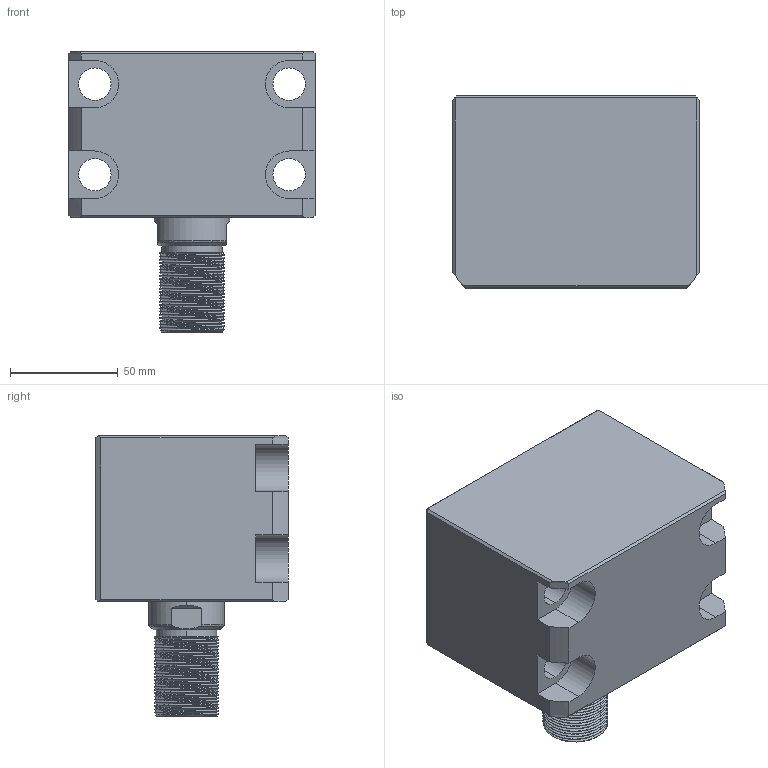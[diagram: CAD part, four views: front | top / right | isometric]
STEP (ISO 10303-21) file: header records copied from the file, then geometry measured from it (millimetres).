
FILE_DESCRIPTION (( 'STEP AP214' ), '1' );
FILE_NAME ('chtb-lam63x10w_asm.STEP', '2018-05-22T03:25:04', ( 'Windows' ), ( 'Microsoft' ), 'SwSTEP 2.0', 'SolidWorks 2015', '' );
FILE_SCHEMA (( 'AUTOMOTIVE_DESIGN' ));
Length unit declared in the file: millimetre
Products named in the file (4): CHTB63X10WHSG; CHTB-63QG; chtb-lam63x10w_asm; CHTB-LAM63X10NBT
Assembly tree (3 placements, depth 2):
  chtb-lam63x10w_asm
    CHTB-63QG
    CHTB63X10WHSG
    CHTB-LAM63X10NBT
Bounding box: 114 x 89 x 130 mm (x, y, z)
Volume: 716718.5 mm3; surface area: 121639.5 mm2
Topology: 3 solids, 3 shells, 223 faces, 663 edges, 451 vertices
Faces by surface type: cylinder 143, plane 50, bspline 15, cone 9, torus 6
Entity records: 23129 total; most frequent: CARTESIAN_POINT 17711, ORIENTED_EDGE 1318, DIRECTION 875, EDGE_CURVE 659, VERTEX_POINT 451, AXIS2_PLACEMENT_3D 320, EDGE_LOOP 246, LINE 235
